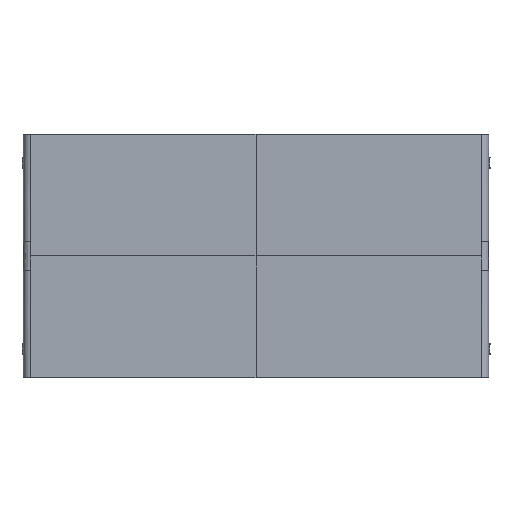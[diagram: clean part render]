
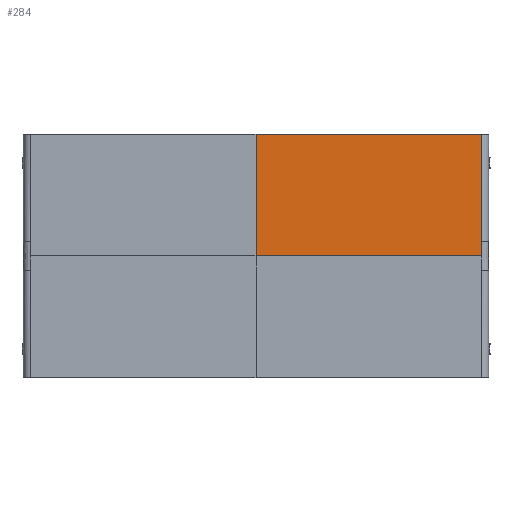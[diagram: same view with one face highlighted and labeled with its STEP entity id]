
A CAD part, top view. The second image highlights one B-rep face of the part: STEP entity #284.
In plain terms, the highlighted planar face has unit normal (0, 0, 1).
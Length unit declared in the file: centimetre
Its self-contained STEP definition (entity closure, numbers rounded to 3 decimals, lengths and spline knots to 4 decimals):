
#284=ADVANCED_FACE($,(#546),#3366,.T.);
#546=FACE_OUTER_BOUND($,#812,.T.);
#812=EDGE_LOOP($,(#1938,#1939,#1940,#1941,#1942));
#1938=ORIENTED_EDGE($,*,*,#2649,.T.);
#1939=ORIENTED_EDGE($,*,*,#2658,.F.);
#1940=ORIENTED_EDGE($,*,*,#2677,.F.);
#1941=ORIENTED_EDGE($,*,*,#2639,.F.);
#1942=ORIENTED_EDGE($,*,*,#2650,.F.);
#2639=EDGE_CURVE($,#3075,#3070,#3797,.T.);
#2649=EDGE_CURVE($,#3084,#3085,#3807,.T.);
#2650=EDGE_CURVE($,#3084,#3075,#3808,.T.);
#2658=EDGE_CURVE($,#3093,#3085,#3812,.T.);
#2677=EDGE_CURVE($,#3070,#3093,#3831,.T.);
#3070=VERTEX_POINT($,#7464);
#3075=VERTEX_POINT($,#7469);
#3084=VERTEX_POINT($,#7478);
#3085=VERTEX_POINT($,#7479);
#3093=VERTEX_POINT($,#7487);
#3366=PLANE($,#4254);
#3797=B_SPLINE_CURVE_WITH_KNOTS($,1,(#7178,#7179),.UNSPECIFIED.,.F.,.F.,
(2,2),(575.,1160.),.UNSPECIFIED.);
#3807=B_SPLINE_CURVE_WITH_KNOTS($,1,(#7202,#7203),.UNSPECIFIED.,.F.,.F.,
(2,2),(-63.,0.),.UNSPECIFIED.);
#3808=B_SPLINE_CURVE_WITH_KNOTS($,1,(#7204,#7205),.UNSPECIFIED.,.F.,.F.,
(2,2),(26.,60.),.UNSPECIFIED.);
#3812=B_SPLINE_CURVE_WITH_KNOTS($,1,(#7224,#7225),.UNSPECIFIED.,.F.,.F.,
(2,2),(-8.,-4.),.UNSPECIFIED.);
#3831=B_SPLINE_CURVE_WITH_KNOTS($,1,(#7262,#7263),.UNSPECIFIED.,.F.,.F.,
(2,2),(0.,300.),.UNSPECIFIED.);
#4254=AXIS2_PLACEMENT_3D($,#7368,#4431,$);
#4431=DIRECTION($,(0.,0.,1.));
#7178=CARTESIAN_POINT($,(62.2391,67.1652,31.4));
#7179=CARTESIAN_POINT($,(125.2391,67.1652,31.4));
#7202=CARTESIAN_POINT($,(62.2391,33.1652,31.4));
#7203=CARTESIAN_POINT($,(125.2391,33.1652,31.4));
#7204=CARTESIAN_POINT($,(62.2391,33.1652,31.4));
#7205=CARTESIAN_POINT($,(62.2391,67.1652,31.4));
#7224=CARTESIAN_POINT($,(125.2391,37.1652,31.4));
#7225=CARTESIAN_POINT($,(125.2391,33.1652,31.4));
#7262=CARTESIAN_POINT($,(125.2391,67.1652,31.4));
#7263=CARTESIAN_POINT($,(125.2391,37.1652,31.4));
#7368=CARTESIAN_POINT($,(62.2391,67.1652,31.4));
#7464=CARTESIAN_POINT($,(125.2391,67.1652,31.4));
#7469=CARTESIAN_POINT($,(62.2391,67.1652,31.4));
#7478=CARTESIAN_POINT($,(62.2391,33.1652,31.4));
#7479=CARTESIAN_POINT($,(125.2391,33.1652,31.4));
#7487=CARTESIAN_POINT($,(125.2391,37.1652,31.4));
